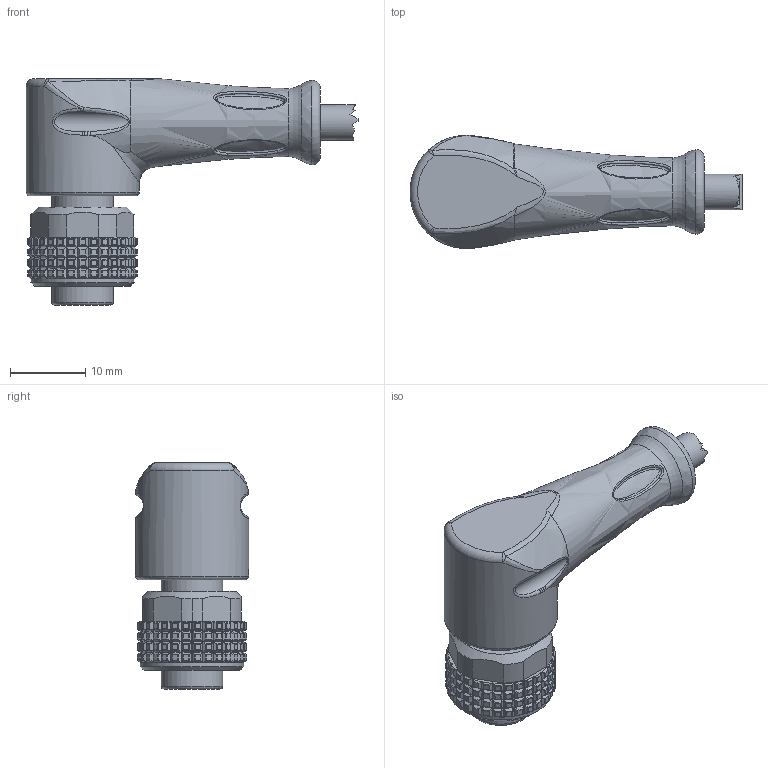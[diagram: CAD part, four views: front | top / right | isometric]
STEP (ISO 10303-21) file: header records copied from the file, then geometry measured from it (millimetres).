
FILE_DESCRIPTION((''),'2;1');
FILE_NAME('C:\Users\enrico\Desktop\Ale\Sito\AUTOMAZIONE_2020\FOTO Connettori circolari per sensori e attuatori\Singola testa\Step\M12 Fe ang.stp','2020-06-25T14:11:51',('Tecnico2'),(''),'Autodesk Inventor 2012','Autodesk Inventor 2012','');
FILE_SCHEMA(('AUTOMOTIVE_DESIGN { 1 0 10303 214 1 1 1 1 }'));
Length unit declared in the file: millimetre
Products named in the file (3): C12F3B2; ghiera M12_FE_NON TECNICO_
Assembly tree (2 placements, depth 2):
  C12F3B2
    C12F3B2
    ghiera M12_FE_NON TECNICO_
Bounding box: 44 x 15 x 30 mm (x, y, z)
Volume: 5967.2 mm3; surface area: 3324.2 mm2
Topology: 2 solids, 2 shells, 2267 faces, 5152 edges, 2892 vertices
Faces by surface type: cylinder 970, plane 749, sphere 482, bspline 52, torus 11, cone 3
Full cylindrical faces by diameter (mm): 4.7 x1, 8.2 x1, 12 x1, 13.7 x1, 15 x1
Entity records: 66132 total; most frequent: CARTESIAN_POINT 14535, DIRECTION 11798, ORIENTED_EDGE 10252, EDGE_CURVE 5126, AXIS2_PLACEMENT_3D 4563, VERTEX_POINT 2884, VECTOR 2672, LINE 2672
